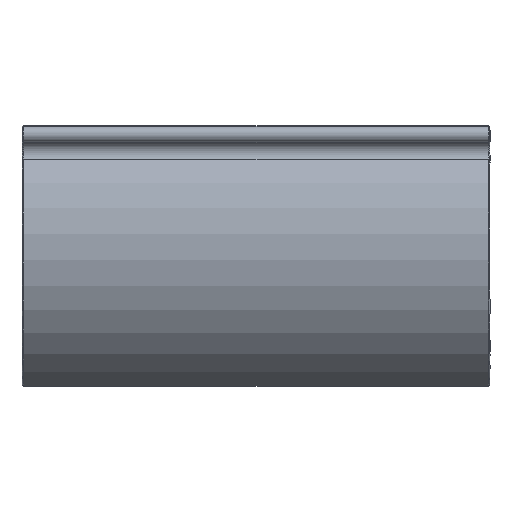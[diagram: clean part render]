
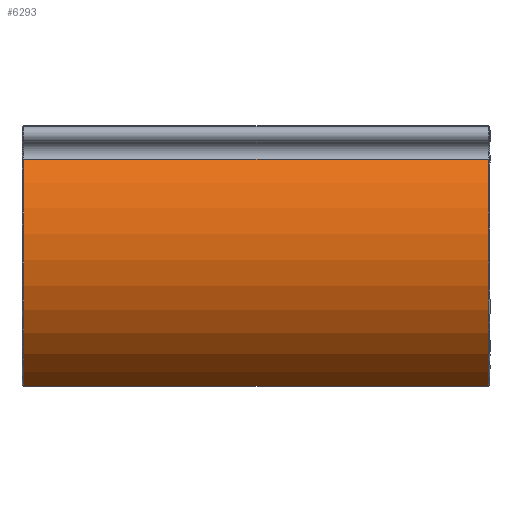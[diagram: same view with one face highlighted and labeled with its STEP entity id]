
A CAD part, front view. The second image highlights one B-rep face of the part: STEP entity #6293.
In plain terms, the highlighted cylindrical face has radius 10.6 mm (diameter 21.2 mm), a partial arc.
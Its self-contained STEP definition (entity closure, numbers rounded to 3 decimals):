
#153 = CARTESIAN_POINT ( 'NONE',  ( 29.9, -9.18, 5.3 ) ) ;
#541 = CARTESIAN_POINT ( 'NONE',  ( 30., 0., 0. ) ) ;
#566 = EDGE_CURVE ( 'NONE', #1062, #3322, #5833, .T. ) ;
#596 = VERTEX_POINT ( 'NONE', #153 ) ;
#610 = EDGE_CURVE ( 'NONE', #5587, #596, #2446, .T. ) ;
#1056 = CARTESIAN_POINT ( 'NONE',  ( 0.1, -5.177, -9.25 ) ) ;
#1062 = VERTEX_POINT ( 'NONE', #1799 ) ;
#1306 = CARTESIAN_POINT ( 'NONE',  ( 30., -5.177, -9.25 ) ) ;
#1438 = ORIENTED_EDGE ( 'NONE', *, *, #610, .T. ) ;
#1443 = VECTOR ( 'NONE', #4515, 1000. ) ;
#1473 = DIRECTION ( 'NONE',  ( 0., 0., 1. ) ) ;
#1600 = DIRECTION ( 'NONE',  ( -1., 0., 0. ) ) ;
#1799 = CARTESIAN_POINT ( 'NONE',  ( 0.1, -9.18, 5.3 ) ) ;
#2084 = EDGE_CURVE ( 'NONE', #3322, #5587, #5384, .T. ) ;
#2219 = VECTOR ( 'NONE', #5796, 1000. ) ;
#2446 = CIRCLE ( 'NONE', #4400, 10.6 ) ;
#2670 = ORIENTED_EDGE ( 'NONE', *, *, #566, .T. ) ;
#2784 = ORIENTED_EDGE ( 'NONE', *, *, #3983, .T. ) ;
#3017 = CARTESIAN_POINT ( 'NONE',  ( 30., -9.18, 5.3 ) ) ;
#3026 = CYLINDRICAL_SURFACE ( 'NONE', #4156, 10.6 ) ;
#3088 = CARTESIAN_POINT ( 'NONE',  ( 0.1, 0., 0. ) ) ;
#3309 = ORIENTED_EDGE ( 'NONE', *, *, #2084, .T. ) ;
#3322 = VERTEX_POINT ( 'NONE', #1056 ) ;
#3510 = DIRECTION ( 'NONE',  ( -1., 0., 0. ) ) ;
#3838 = CARTESIAN_POINT ( 'NONE',  ( 29.9, -5.177, -9.25 ) ) ;
#3983 = EDGE_CURVE ( 'NONE', #596, #1062, #4061, .T. ) ;
#4031 = DIRECTION ( 'NONE',  ( 0., 0., 1. ) ) ;
#4061 = LINE ( 'NONE', #3017, #1443 ) ;
#4156 = AXIS2_PLACEMENT_3D ( 'NONE', #541, #3510, #1473 ) ;
#4400 = AXIS2_PLACEMENT_3D ( 'NONE', #4494, #1600, #4031 ) ;
#4494 = CARTESIAN_POINT ( 'NONE',  ( 29.9, 0., 0. ) ) ;
#4515 = DIRECTION ( 'NONE',  ( -1., 0., 0. ) ) ;
#5384 = LINE ( 'NONE', #1306, #2219 ) ;
#5389 = AXIS2_PLACEMENT_3D ( 'NONE', #3088, #6039, #6061 ) ;
#5518 = EDGE_LOOP ( 'NONE', ( #3309, #1438, #2784, #2670 ) ) ;
#5587 = VERTEX_POINT ( 'NONE', #3838 ) ;
#5796 = DIRECTION ( 'NONE',  ( 1., 0., 0. ) ) ;
#5833 = CIRCLE ( 'NONE', #5389, 10.6 ) ;
#6039 = DIRECTION ( 'NONE',  ( 1., 0., 0. ) ) ;
#6061 = DIRECTION ( 'NONE',  ( 0., 0., 1. ) ) ;
#6182 = FACE_OUTER_BOUND ( 'NONE', #5518, .T. ) ;
#6293 = ADVANCED_FACE ( 'NONE', ( #6182 ), #3026, .T. ) ;
